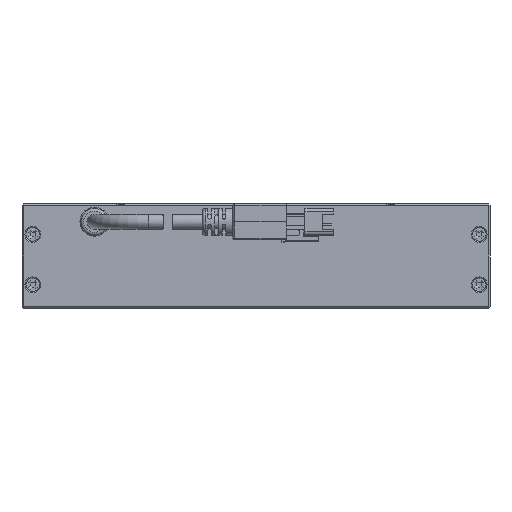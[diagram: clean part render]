
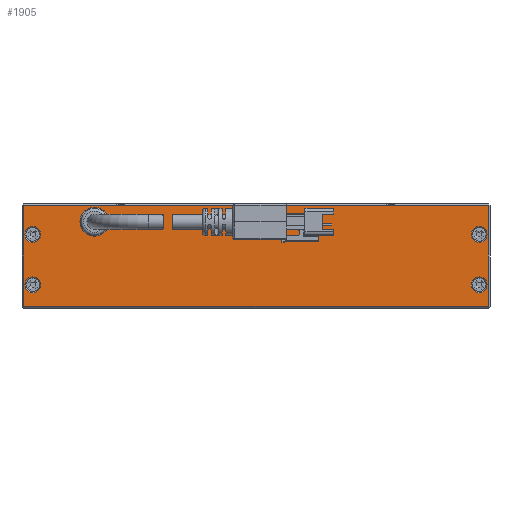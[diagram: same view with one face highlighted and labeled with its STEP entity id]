
A CAD part, front view. The second image highlights one B-rep face of the part: STEP entity #1905.
In plain terms, the highlighted planar face has unit normal (0, -1, 0).
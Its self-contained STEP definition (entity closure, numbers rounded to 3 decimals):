
#325 = DIRECTION ( 'NONE',  ( 0., -1., 0. ) ) ;
#723 = VECTOR ( 'NONE', #11066, 1000. ) ;
#894 = CIRCLE ( 'NONE', #19449, 2.2 ) ;
#1166 = FACE_BOUND ( 'NONE', #14976, .T. ) ;
#1278 = CIRCLE ( 'NONE', #15064, 2.2 ) ;
#1387 = CARTESIAN_POINT ( 'NONE',  ( -64.2, -65., -6.5 ) ) ;
#1412 = CARTESIAN_POINT ( 'NONE',  ( -64.5, -65., 2. ) ) ;
#1419 = VERTEX_POINT ( 'NONE', #15637 ) ;
#1679 = ORIENTED_EDGE ( 'NONE', *, *, #1812, .T. ) ;
#1812 = EDGE_CURVE ( 'NONE', #3160, #19107, #3286, .T. ) ;
#1852 = LINE ( 'NONE', #9898, #10340 ) ;
#1880 = CARTESIAN_POINT ( 'NONE',  ( -62., -65., -6.5 ) ) ;
#1905 = ADVANCED_FACE ( 'NONE', ( #14176, #9662, #12553, #1166, #8073, #2757 ), #16048, .F. ) ;
#2161 = DIRECTION ( 'NONE',  ( -1., 0., 0. ) ) ;
#2173 = DIRECTION ( 'NONE',  ( 0., -1., 0. ) ) ;
#2182 = CARTESIAN_POINT ( 'NONE',  ( 64.5, -65., 2. ) ) ;
#2333 = DIRECTION ( 'NONE',  ( 0., 0., 1. ) ) ;
#2541 = DIRECTION ( 'NONE',  ( 0., 1., 0. ) ) ;
#2757 = FACE_BOUND ( 'NONE', #14620, .T. ) ;
#3160 = VERTEX_POINT ( 'NONE', #6355 ) ;
#3286 = LINE ( 'NONE', #2182, #6195 ) ;
#3466 = CARTESIAN_POINT ( 'NONE',  ( -64.5, -65., -26.5 ) ) ;
#3486 = ORIENTED_EDGE ( 'NONE', *, *, #16173, .T. ) ;
#3733 = VERTEX_POINT ( 'NONE', #1387 ) ;
#4229 = CARTESIAN_POINT ( 'NONE',  ( -47.7, -65., -3. ) ) ;
#4413 = EDGE_CURVE ( 'NONE', #19107, #1419, #4507, .T. ) ;
#4480 = LINE ( 'NONE', #1412, #11888 ) ;
#4507 = LINE ( 'NONE', #19840, #13815 ) ;
#5370 = DIRECTION ( 'NONE',  ( 0., -1., 0. ) ) ;
#5490 = ORIENTED_EDGE ( 'NONE', *, *, #17628, .F. ) ;
#5538 = ORIENTED_EDGE ( 'NONE', *, *, #7919, .F. ) ;
#5652 = EDGE_CURVE ( 'NONE', #7608, #20113, #1852, .T. ) ;
#6195 = VECTOR ( 'NONE', #20870, 1000. ) ;
#6355 = CARTESIAN_POINT ( 'NONE',  ( 64.5, -65., -26.5 ) ) ;
#6634 = EDGE_LOOP ( 'NONE', ( #17731 ) ) ;
#6668 = CARTESIAN_POINT ( 'NONE',  ( -47.7, -65., 0. ) ) ;
#6923 = VERTEX_POINT ( 'NONE', #17962 ) ;
#7579 = VECTOR ( 'NONE', #18341, 1000. ) ;
#7608 = VERTEX_POINT ( 'NONE', #4229 ) ;
#7919 = EDGE_CURVE ( 'NONE', #9095, #6923, #17385, .T. ) ;
#7978 = DIRECTION ( 'NONE',  ( -1., 0., 0. ) ) ;
#8073 = FACE_BOUND ( 'NONE', #16387, .T. ) ;
#8232 = EDGE_CURVE ( 'NONE', #7608, #9095, #11809, .T. ) ;
#8454 = EDGE_CURVE ( 'NONE', #20113, #6923, #14466, .T. ) ;
#8559 = AXIS2_PLACEMENT_3D ( 'NONE', #9748, #13160, #7978 ) ;
#9051 = VERTEX_POINT ( 'NONE', #10198 ) ;
#9095 = VERTEX_POINT ( 'NONE', #18659 ) ;
#9512 = VERTEX_POINT ( 'NONE', #3466 ) ;
#9662 = FACE_OUTER_BOUND ( 'NONE', #12799, .T. ) ;
#9748 = CARTESIAN_POINT ( 'NONE',  ( 62., -65., -20.5 ) ) ;
#9898 = CARTESIAN_POINT ( 'NONE',  ( -47.7, -65., 0. ) ) ;
#10115 = CIRCLE ( 'NONE', #8559, 2.2 ) ;
#10186 = DIRECTION ( 'NONE',  ( -1., 0., 0. ) ) ;
#10198 = CARTESIAN_POINT ( 'NONE',  ( 59.8, -65., -6.5 ) ) ;
#10340 = VECTOR ( 'NONE', #11598, 1000. ) ;
#10481 = CARTESIAN_POINT ( 'NONE',  ( -62., -65., -20.5 ) ) ;
#10622 = CARTESIAN_POINT ( 'NONE',  ( 62., -65., -6.5 ) ) ;
#11066 = DIRECTION ( 'NONE',  ( 1., 0., 0. ) ) ;
#11504 = CARTESIAN_POINT ( 'NONE',  ( -65., -65., 0. ) ) ;
#11598 = DIRECTION ( 'NONE',  ( 0., 0., 1. ) ) ;
#11809 = CIRCLE ( 'NONE', #17167, 2.8 ) ;
#11847 = AXIS2_PLACEMENT_3D ( 'NONE', #21151, #2541, #12704 ) ;
#11888 = VECTOR ( 'NONE', #18400, 1000. ) ;
#11956 = EDGE_CURVE ( 'NONE', #15950, #15950, #894, .T. ) ;
#12553 = FACE_BOUND ( 'NONE', #6634, .T. ) ;
#12704 = DIRECTION ( 'NONE',  ( -1., 0., 0. ) ) ;
#12799 = EDGE_LOOP ( 'NONE', ( #13011, #18896, #3486, #1679 ) ) ;
#12857 = DIRECTION ( 'NONE',  ( -1., 0., 0. ) ) ;
#12883 = VECTOR ( 'NONE', #2333, 1000. ) ;
#12933 = CARTESIAN_POINT ( 'NONE',  ( -65., -65., -26.5 ) ) ;
#13011 = ORIENTED_EDGE ( 'NONE', *, *, #4413, .T. ) ;
#13160 = DIRECTION ( 'NONE',  ( 0., -1., 0. ) ) ;
#13340 = CIRCLE ( 'NONE', #20769, 2.2 ) ;
#13536 = CARTESIAN_POINT ( 'NONE',  ( 59.8, -65., -20.5 ) ) ;
#13815 = VECTOR ( 'NONE', #12857, 1000. ) ;
#14113 = EDGE_LOOP ( 'NONE', ( #20649, #17206, #5538, #20174 ) ) ;
#14176 = FACE_BOUND ( 'NONE', #14113, .T. ) ;
#14355 = DIRECTION ( 'NONE',  ( 0., -1., 0. ) ) ;
#14466 = LINE ( 'NONE', #11504, #7579 ) ;
#14620 = EDGE_LOOP ( 'NONE', ( #21250 ) ) ;
#14976 = EDGE_LOOP ( 'NONE', ( #5490 ) ) ;
#15064 = AXIS2_PLACEMENT_3D ( 'NONE', #1880, #325, #10186 ) ;
#15637 = CARTESIAN_POINT ( 'NONE',  ( -64.5, -65., 1.5 ) ) ;
#15930 = VERTEX_POINT ( 'NONE', #13536 ) ;
#15942 = EDGE_CURVE ( 'NONE', #3733, #3733, #1278, .T. ) ;
#15950 = VERTEX_POINT ( 'NONE', #21618 ) ;
#16048 = PLANE ( 'NONE',  #11847 ) ;
#16173 = EDGE_CURVE ( 'NONE', #9512, #3160, #21905, .T. ) ;
#16387 = EDGE_LOOP ( 'NONE', ( #19578 ) ) ;
#17167 = AXIS2_PLACEMENT_3D ( 'NONE', #17605, #14355, #2161 ) ;
#17206 = ORIENTED_EDGE ( 'NONE', *, *, #8454, .T. ) ;
#17385 = LINE ( 'NONE', #17465, #12883 ) ;
#17456 = DIRECTION ( 'NONE',  ( -1., 0., 0. ) ) ;
#17465 = CARTESIAN_POINT ( 'NONE',  ( -42.1, -65., -3. ) ) ;
#17605 = CARTESIAN_POINT ( 'NONE',  ( -44.9, -65., -3. ) ) ;
#17628 = EDGE_CURVE ( 'NONE', #9051, #9051, #13340, .T. ) ;
#17731 = ORIENTED_EDGE ( 'NONE', *, *, #18364, .F. ) ;
#17962 = CARTESIAN_POINT ( 'NONE',  ( -42.1, -65., 0. ) ) ;
#18341 = DIRECTION ( 'NONE',  ( 1., 0., 0. ) ) ;
#18364 = EDGE_CURVE ( 'NONE', #15930, #15930, #10115, .T. ) ;
#18400 = DIRECTION ( 'NONE',  ( 0., 0., -1. ) ) ;
#18659 = CARTESIAN_POINT ( 'NONE',  ( -42.1, -65., -3. ) ) ;
#18787 = DIRECTION ( 'NONE',  ( -1., 0., 0. ) ) ;
#18896 = ORIENTED_EDGE ( 'NONE', *, *, #20064, .T. ) ;
#19107 = VERTEX_POINT ( 'NONE', #19557 ) ;
#19449 = AXIS2_PLACEMENT_3D ( 'NONE', #10481, #5370, #18787 ) ;
#19557 = CARTESIAN_POINT ( 'NONE',  ( 64.5, -65., 1.5 ) ) ;
#19578 = ORIENTED_EDGE ( 'NONE', *, *, #15942, .F. ) ;
#19840 = CARTESIAN_POINT ( 'NONE',  ( -65., -65., 1.5 ) ) ;
#20064 = EDGE_CURVE ( 'NONE', #1419, #9512, #4480, .T. ) ;
#20113 = VERTEX_POINT ( 'NONE', #6668 ) ;
#20174 = ORIENTED_EDGE ( 'NONE', *, *, #8232, .F. ) ;
#20649 = ORIENTED_EDGE ( 'NONE', *, *, #5652, .T. ) ;
#20769 = AXIS2_PLACEMENT_3D ( 'NONE', #10622, #2173, #17456 ) ;
#20870 = DIRECTION ( 'NONE',  ( 0., 0., 1. ) ) ;
#21151 = CARTESIAN_POINT ( 'NONE',  ( -65., -65., 2. ) ) ;
#21250 = ORIENTED_EDGE ( 'NONE', *, *, #11956, .F. ) ;
#21618 = CARTESIAN_POINT ( 'NONE',  ( -64.2, -65., -20.5 ) ) ;
#21905 = LINE ( 'NONE', #12933, #723 ) ;
